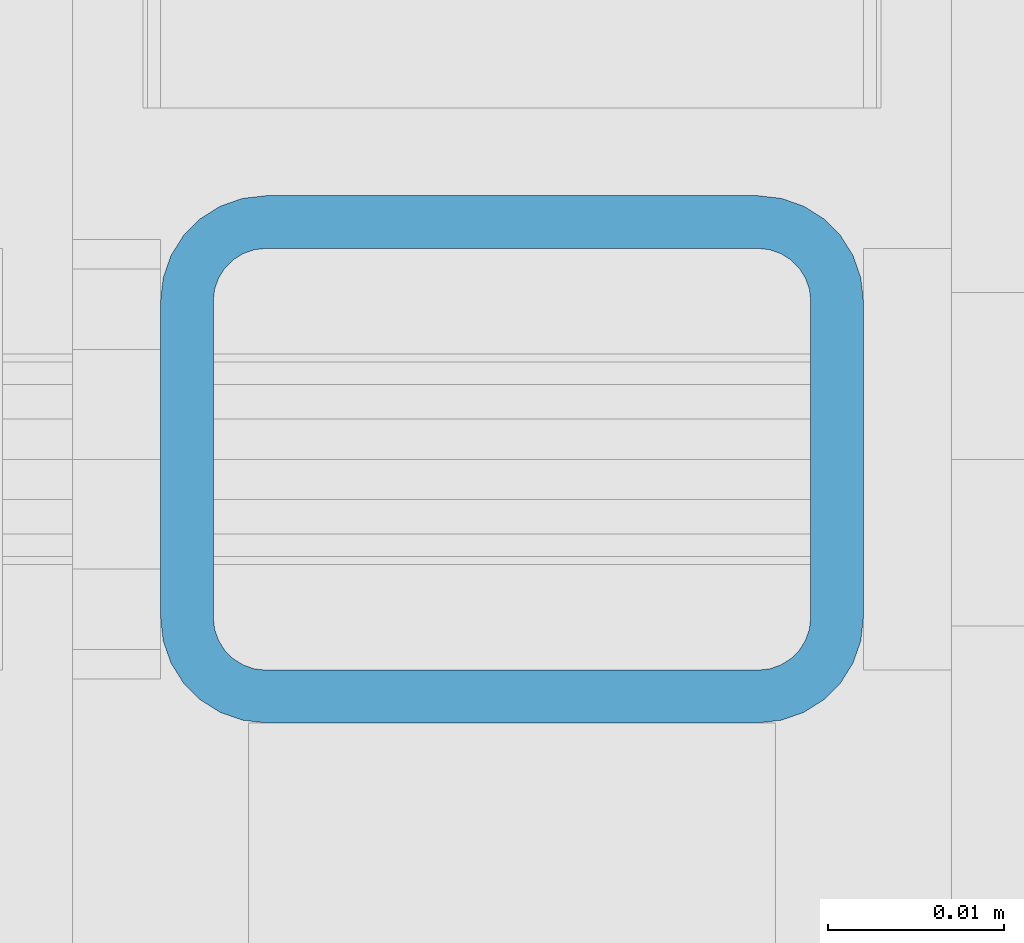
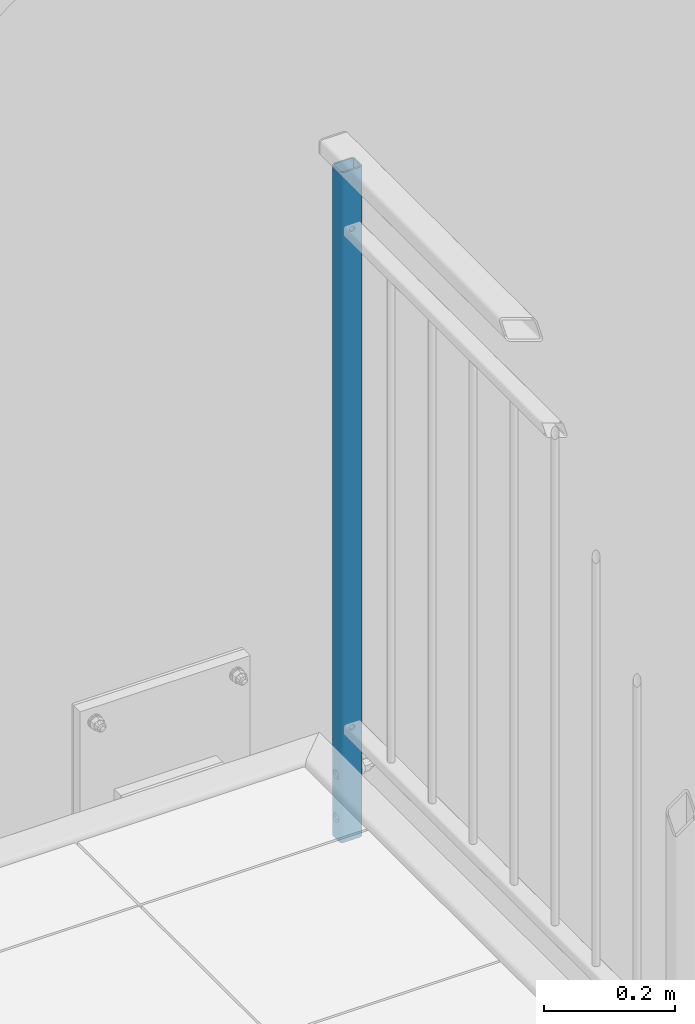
# One storey, part 13 of 162: 1 column, 6 openings.
"""IFC2X3 building model written with IfcOpenShell, lengths in millimetres."""

import ifcopenshell
import ifcopenshell.guid

model = None  # the IFC model being written
_history = None  # IfcOwnerHistory: only IFC2X3 demands one
_inside = {}  # id of a spatial element -> (the spatial element, [elements in it])
_under = {}  # id of a project, library or spatial element -> (it, [spatial elements below it])
_declared = {}  # id of a project -> (the project, [libraries it declares])
_typed = {}  # id of a type object -> (the type object, [elements of that type])
_made_of = {}  # id of a material, layer set ... -> (it, [elements and type objects made of it])


def new_model(schema):
    """Start an empty IFC model of exactly this schema.

    Asked for "IFC4X3", IfcOpenShell would pick the latest addendum, in which some entities
    have other attributes; the version numbers below select the first issue.
    IFC2X3 requires an IfcOwnerHistory on every rooted entity: one is made here for all.
    """
    global model, _history
    if schema == "IFC4X3":
        model = ifcopenshell.file(schema_version=(4, 3, 0, 0))
    else:
        model = ifcopenshell.file(schema=schema)
    _inside.clear()
    _under.clear()
    _declared.clear()
    _typed.clear()
    _made_of.clear()
    _history = None
    if model.schema == "IFC2X3":
        org = make("IfcOrganization", Name="unknown")
        user = make(
            "IfcPersonAndOrganization",
            ThePerson=make("IfcPerson", FamilyName="unknown"),
            TheOrganization=org,
        )
        app = make(
            "IfcApplication",
            ApplicationDeveloper=org,
            Version="unknown",
            ApplicationFullName="unknown",
            ApplicationIdentifier="unknown",
        )
        _history = make(
            "IfcOwnerHistory",
            OwningUser=user,
            OwningApplication=app,
            ChangeAction="ADDED",
            CreationDate=0,
        )
    return model


def make(cls, **values):
    """One entity of the class cls with the attributes given. An attribute that is None is left unset."""
    return model.create_entity(
        cls, **{name: value for name, value in values.items() if value is not None}
    )


def entity(cls, *values):
    """Any entity or typed value of the class cls, its attributes in the order of the schema. None: left unset."""
    e = model.create_entity(cls)
    for i, value in enumerate(values):
        if value is not None:
            e[i] = value
    return e


def rooted(cls, **values):
    """An entity with a GlobalId (a new one), such as an element, a storey or a relation."""
    return make(cls, GlobalId=ifcopenshell.guid.new(), OwnerHistory=_history, **values)


def si_unit(unit_type, name, prefix=None):
    """IfcSIUnit, for example si_unit("LENGTHUNIT", "METRE", prefix="MILLI")."""
    return make("IfcSIUnit", UnitType=unit_type, Prefix=prefix, Name=name)


def converted_unit(unit_type, name, factor, base, dimensions=None, offset=None):
    """IfcConversionBasedUnit, such as the inch: factor (a typed value) times the base unit."""
    return make(
        "IfcConversionBasedUnit"
        if offset is None
        else "IfcConversionBasedUnitWithOffset",
        ConversionOffset=offset,
        Dimensions=None
        if dimensions is None
        else entity("IfcDimensionalExponents", *dimensions),
        UnitType=unit_type,
        Name=name,
        ConversionFactor=make(
            "IfcMeasureWithUnit", ValueComponent=factor, UnitComponent=base
        ),
    )


def assignment(units):
    """IfcUnitAssignment: the units of a project."""
    return None if units is None else make("IfcUnitAssignment", Units=units)


def point(xyz):
    """IfcCartesianPoint."""
    return None if xyz is None else make("IfcCartesianPoint", Coordinates=xyz)


def direction(xyz):
    """IfcDirection."""
    return None if xyz is None else make("IfcDirection", DirectionRatios=xyz)


def frame(location, z_axis=None, x_axis=None):
    """IfcAxis2Placement3D, a coordinate frame: its origin and axes. An axis left out is left unset."""
    return make(
        "IfcAxis2Placement3D",
        Location=point(location),
        Axis=direction(z_axis),
        RefDirection=direction(x_axis),
    )


def frame_2d(location, x_axis=None):
    """IfcAxis2Placement2D, a coordinate frame in the plane: its origin and x axis."""
    return make(
        "IfcAxis2Placement2D", Location=point(location), RefDirection=direction(x_axis)
    )


def origin():
    """The frame at (0, 0, 0) with its axes left unset."""
    return frame((0.0, 0.0, 0.0))


def origin_with_axes():
    """The frame at (0, 0, 0) with the z axis (0, 0, 1) and the x axis (1, 0, 0) written out."""
    return frame((0.0, 0.0, 0.0), z_axis=(0.0, 0.0, 1.0), x_axis=(1.0, 0.0, 0.0))


def origin_2d():
    """The frame at (0, 0) in the plane with its x axis left unset."""
    return frame_2d((0.0, 0.0))


def place(relative_to, where):
    """IfcLocalPlacement: puts the frame where relative to a parent placement (None: the world)."""
    return make(
        "IfcLocalPlacement", PlacementRelTo=relative_to, RelativePlacement=where
    )


def context(
    kind, dimensions, precision=None, world=None, true_north=None, identifier=None
):
    """IfcGeometricRepresentationContext, for example the 3D "Model" context."""
    return make(
        "IfcGeometricRepresentationContext",
        ContextIdentifier=identifier,
        ContextType=kind,
        CoordinateSpaceDimension=dimensions,
        Precision=precision,
        WorldCoordinateSystem=world,
        TrueNorth=true_north,
    )


def project(units=None, contexts=None):
    """IfcProject with its units and contexts."""
    return rooted(
        "IfcProject",
        Name="project",
        RepresentationContexts=contexts,
        UnitsInContext=assignment(units),
    )


def spatial(cls, under=None, at=None, **own):
    """A site, building, storey or space (cls), placed at a placement, below another one or the project."""
    s = rooted(cls, ObjectPlacement=at, **own)
    if under is not None:
        _under.setdefault(under.id(), (under, []))[1].append(s)
    return s


def profile(cls, at=None, kind="AREA", **sizes):
    """A parametric profile (cls). Its sizes go by their IFC names, for example OverallWidth=200.0."""
    return make(cls, ProfileType=kind, Position=at, **sizes)


def hollow_rectangle(**sizes):
    """IfcRectangleHollowProfileDef."""
    return profile("IfcRectangleHollowProfileDef", **sizes)


def circle(**sizes):
    """IfcCircleProfileDef."""
    return profile("IfcCircleProfileDef", **sizes)


def extrude(swept, where, along, depth):
    """IfcExtrudedAreaSolid: the profile swept, set in the frame where, extruded along a direction by depth."""
    return make(
        "IfcExtrudedAreaSolid",
        SweptArea=swept,
        Position=where,
        ExtrudedDirection=direction(along),
        Depth=depth,
    )


def shape(context_of_items, identifier, shape_type, items):
    """IfcShapeRepresentation: the items that make up one representation, for example the "Body"."""
    return make(
        "IfcShapeRepresentation",
        ContextOfItems=context_of_items,
        RepresentationIdentifier=identifier,
        RepresentationType=shape_type,
        Items=items,
    )


def material(Name=None, Category=None):
    """IfcMaterial."""
    return make("IfcMaterial", Name=Name, Category=Category)


def made_of(thing, what):
    """Note that an element or type object is made of a material, layer set ...; save() writes the relation."""
    if what is not None:
        _made_of.setdefault(what.id(), (what, []))[1].append(thing)
    return thing


def element(
    cls,
    number,
    at=None,
    inside=None,
    cuts=None,
    type_object=None,
    material=None,
    context=None,
    identifier="Body",
    shape_type=None,
    held_by="IfcProductDefinitionShape",
    body=None,
    shapes=None,
    **own,
):
    """One element of the class cls, such as IfcWall. Its Tag is "e" and its number.

    at: its placement. inside: the storey or other place that contains it. cuts: it is an
    opening in that element (IfcRelVoidsElement). A single representation is given by context,
    identifier, shape_type and body (its items); several are given by shapes. held_by: the class
    of the entity that holds the representations. save() writes the other relations.
    """
    e = rooted(cls, Tag="e%d" % number, ObjectPlacement=at, **own)
    if body is not None:
        shapes = [shape(context, identifier, shape_type, body)]
    if shapes is not None:
        e.Representation = make(held_by, Representations=shapes)
    if inside is not None:
        _inside.setdefault(inside.id(), (inside, []))[1].append(e)
    if cuts is not None:
        rooted(
            "IfcRelVoidsElement", RelatingBuildingElement=cuts, RelatedOpeningElement=e
        )
    if type_object is not None:
        _typed.setdefault(type_object.id(), (type_object, []))[1].append(e)
    return made_of(e, material)


def aggregate(whole, parts):
    """IfcRelAggregates: a whole, such as a stair, and the parts it consists of."""
    return rooted("IfcRelAggregates", RelatingObject=whole, RelatedObjects=parts)


def save(model, path):
    """Write the relations noted so far, then the file.

    IfcRelAggregates (storeys below a building ...), IfcRelContainedInSpatialStructure (elements
    in a storey), IfcRelDefinesByType, IfcRelAssociatesMaterial and IfcRelDeclares: one each for
    every whole, place, type object, material and project.
    """
    for whole, parts in _under.values():
        aggregate(whole, parts)
    for where, things in _inside.values():
        rooted(
            "IfcRelContainedInSpatialStructure",
            RelatedElements=things,
            RelatingStructure=where,
        )
    for kind, things in _typed.values():
        rooted("IfcRelDefinesByType", RelatedObjects=things, RelatingType=kind)
    for what, things in _made_of.values():
        rooted("IfcRelAssociatesMaterial", RelatedObjects=things, RelatingMaterial=what)
    for by, libraries in _declared.values():
        rooted("IfcRelDeclares", RelatingContext=by, RelatedDefinitions=libraries)
    model.write(path)


model = new_model("IFC2X3")

# Units and contexts
model_context = context("Model", 3, precision=1e-09, world=origin_with_axes())
ifc_project = project(units=[si_unit("LENGTHUNIT", "METRE", prefix="MILLI"), si_unit("AREAUNIT", "SQUARE_METRE"), si_unit("VOLUMEUNIT", "CUBIC_METRE"), converted_unit("PLANEANGLEUNIT", "DEGREE", entity("IfcPlaneAngleMeasure", 0.01745329), si_unit("PLANEANGLEUNIT", "RADIAN"), dimensions=[0, 0, 0, 0, 0, 0, 0])], contexts=[model_context])

# Site, building, storey
site_placement = place(None, origin_with_axes())
site = spatial("IfcSite", under=ifc_project, at=site_placement, Name="Hermannstra?e 1a, 60318 Frankfurt", CompositionType="ELEMENT")
building_placement = place(site_placement, origin_with_axes())
building = spatial("IfcBuilding", under=site, at=building_placement, Name="Struktur 1", CompositionType="ELEMENT")
storey_placement = place(building_placement, origin_with_axes())
storey = spatial("IfcBuildingStorey", under=building, at=storey_placement, Name="Default Storey", CompositionType="ELEMENT", Elevation=0.0)

# Column, openings
ifc_material = material(Name="S235JR")
column_placement = place(None, frame((5848.30936482, 2630.609373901, 15056.999), z_axis=(0.0, 0.0, -1.0), x_axis=(0.0, -1.0, 0.0)))
column = element("IfcColumn", 1, at=column_placement, inside=storey, material=ifc_material, Name="-", ObjectType="-", context=model_context, shape_type="SweptSolid", body=[
    extrude(hollow_rectangle(XDim=30.0, YDim=40.0, WallThickness=3.0, InnerFilletRadius=3.0, OuterFilletRadius=6.0, at=origin_2d()), origin(), (0.0, 0.0, -1.0), 1250.0),
])
opening_1_placement = place(column_placement, frame((11.5, -5.001, -1140.0), z_axis=(-1.0, 0.0, 0.0), x_axis=(0.0, -1.0, 0.0)))
element("IfcOpeningElement", 2, at=opening_1_placement, cuts=column, ObjectType="Opening", context=model_context, shape_type="SweptSolid", body=[
    extrude(circle(Radius=5.001, at=frame_2d((-5.001, 0.0), x_axis=(1.0, 0.0))), origin(), (0.0, 0.0, -1.0), 4.0),
])
opening_2_placement = place(column_placement, frame((11.5, -5.001, -210.0), z_axis=(-1.0, 0.0, 0.0), x_axis=(0.0, -1.0, 0.0)))
element("IfcOpeningElement", 3, at=opening_2_placement, cuts=column, ObjectType="Opening", context=model_context, shape_type="SweptSolid", body=[
    extrude(circle(Radius=5.001, at=frame_2d((-5.001, 0.0), x_axis=(1.0, 0.0))), origin(), (0.0, 0.0, -1.0), 4.0),
])
opening_3_placement = place(column_placement, frame((8.001, 16.5, -120.0), z_axis=(0.0, -1.0, 0.0), x_axis=(1.0, 0.0, 0.0)))
element("IfcOpeningElement", 4, at=opening_3_placement, cuts=column, ObjectType="Opening", context=model_context, shape_type="SweptSolid", body=[
    extrude(circle(Radius=8.001, at=frame_2d((-8.001, 0.0), x_axis=(1.0, 0.0))), origin(), (0.0, 0.0, -1.0), 4.0),
])
opening_4_placement = place(column_placement, frame((8.001, 16.5, -40.0), z_axis=(0.0, -1.0, 0.0), x_axis=(1.0, 0.0, 0.0)))
element("IfcOpeningElement", 5, at=opening_4_placement, cuts=column, ObjectType="Opening", context=model_context, shape_type="SweptSolid", body=[
    extrude(circle(Radius=8.001, at=frame_2d((-8.001, 0.0), x_axis=(1.0, 0.0))), origin(), (0.0, 0.0, -1.0), 4.0),
])
opening_5_placement = place(column_placement, frame((8.001, -20.5, -120.0), z_axis=(0.0, -1.0, 0.0), x_axis=(1.0, 0.0, 0.0)))
element("IfcOpeningElement", 6, at=opening_5_placement, cuts=column, ObjectType="Opening", context=model_context, shape_type="SweptSolid", body=[
    extrude(circle(Radius=8.001, at=frame_2d((-8.001, 0.0), x_axis=(1.0, 0.0))), origin(), (0.0, 0.0, -1.0), 4.0),
])
opening_6_placement = place(column_placement, frame((8.001, -20.5, -40.0), z_axis=(0.0, -1.0, 0.0), x_axis=(1.0, 0.0, 0.0)))
element("IfcOpeningElement", 7, at=opening_6_placement, cuts=column, ObjectType="Opening", context=model_context, shape_type="SweptSolid", body=[
    extrude(circle(Radius=8.001, at=frame_2d((-8.001, 0.0), x_axis=(1.0, 0.0))), origin(), (0.0, 0.0, -1.0), 4.0),
])

save(model, "model.ifc")
